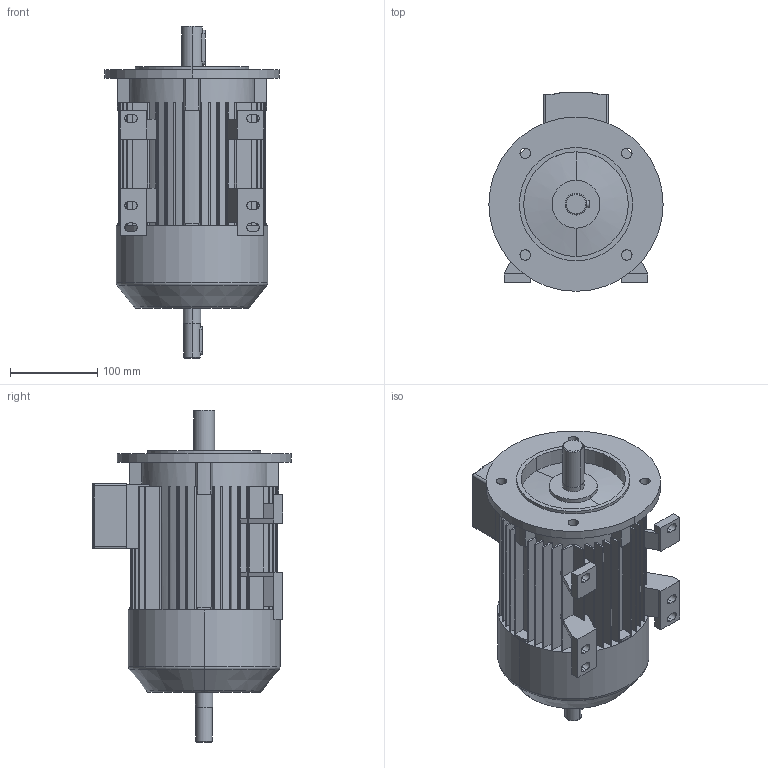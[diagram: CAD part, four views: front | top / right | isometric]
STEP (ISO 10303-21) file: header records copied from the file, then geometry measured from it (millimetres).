
FILE_DESCRIPTION((''),'2;1');
FILE_NAME('1LA7090-2AA16-Z-K16_PRT','2002-04-12T',('martin könig'),(''),'PRO/ENGINEER BY PARAMETRIC TECHNOLOGY CORPORATION, 2002030','PRO/ENGINEER BY PARAMETRIC TECHNOLOGY CORPORATION, 2002030','');
FILE_SCHEMA(('CONFIG_CONTROL_DESIGN'));
Length unit declared in the file: millimetre
Products named in the file (1): 1LA7090-2AA16-Z-K16_PRT
Bounding box: 200 x 228 x 381 mm (x, y, z)
Volume: 5710146.8 mm3; surface area: 402700.3 mm2
Topology: 1 solids, 1 shells, 386 faces, 1090 edges, 718 vertices
Faces by surface type: plane 252, cylinder 122, cone 8, torus 4
Entity records: 12654 total; most frequent: CARTESIAN_POINT 2268, DIRECTION 2182, ORIENTED_EDGE 2180, EDGE_CURVE 1090, VECTOR 762, LINE 762, VERTEX_POINT 718, AXIS2_PLACEMENT_3D 710
